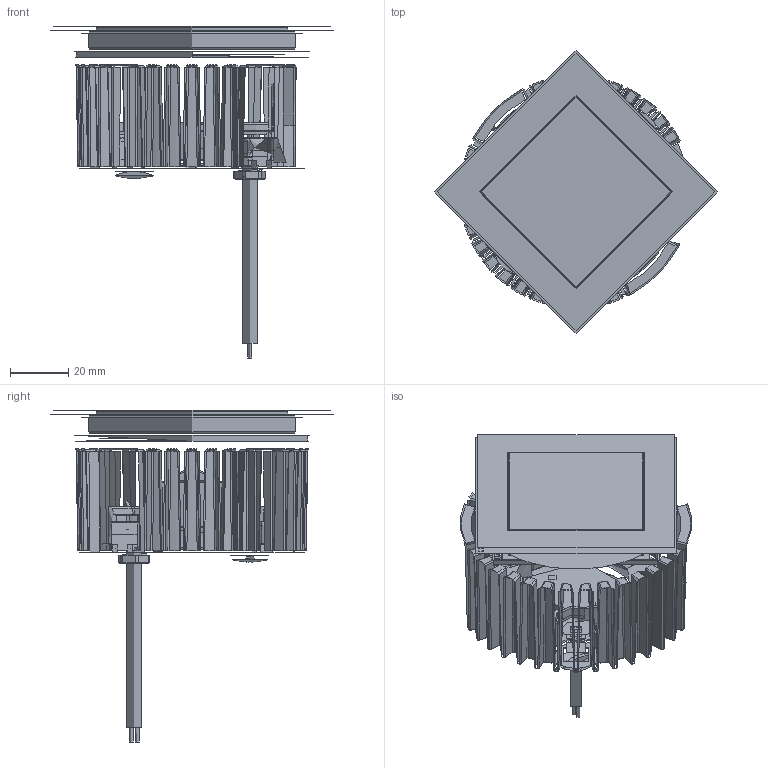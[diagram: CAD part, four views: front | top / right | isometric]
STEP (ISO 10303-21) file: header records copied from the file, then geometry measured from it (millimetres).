
FILE_DESCRIPTION(/* description */ ('Unknown'),/* implementation_level */ '2;1');
FILE_NAME(/* name */ 'ORMA 8W FLANGIA_Semplifica',/* time_stamp */ '2023-01-13T13:37:51+01:00',/* author */ ('Unknown'),/* organization */ ('Unknown'),/* preprocessor_version */ 'ST-DEVELOPER v18.1',/* originating_system */ 'Solid Edge',/* authorisation */ 'Unknown');
FILE_SCHEMA (('AUTOMOTIVE_DESIGN {1 0 10303 214 3 1 1}'));
Length unit declared in the file: millimetre
Products named in the file (1): ORMA 8W FLANGIA_Semplifica
Bounding box: 97 x 97 x 113.69 mm (x, y, z)
Volume: 110626.8 mm3; surface area: 66389.2 mm2
Topology: 3 solids, 3 shells, 1070 faces, 2378 edges, 1431 vertices
Faces by surface type: bspline 252, plane 244, cylinder 210, torus 174, sphere 99, cone 91
Full cylindrical faces by diameter (mm): 0.01 x3, 1 x54, 1.2 x4, 1.4 x4, 2.2 x2, 5.188 x1, 5.2 x1, 5.6 x1, 8.5 x1, 8.917 x3, 10.6 x1, 13.5 x1, 16.101 x4, 17 x2, 30 x1, 56 x1, 65.5 x1, 69.5 x1, 71 x1, 75.835 x2, 80.5 x1, 97 x1
Entity records: 41633 total; most frequent: CARTESIAN_POINT 12531, ORIENTED_EDGE 4722, DIRECTION 4374, EDGE_CURVE 2361, AXIS2_PLACEMENT_3D 1932, VERTEX_POINT 1429, FACE_BOUND 1224, EDGE_LOOP 1222
